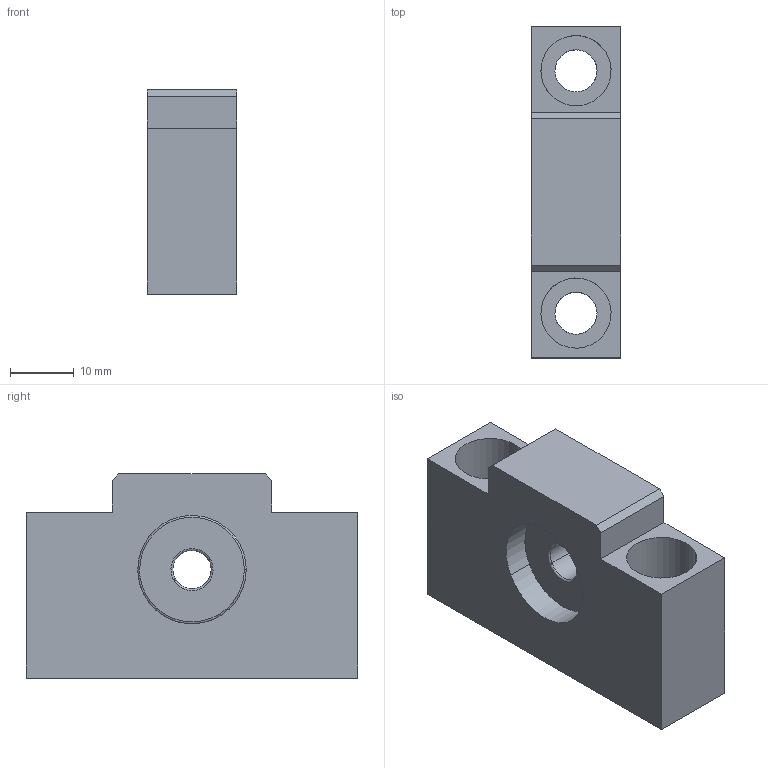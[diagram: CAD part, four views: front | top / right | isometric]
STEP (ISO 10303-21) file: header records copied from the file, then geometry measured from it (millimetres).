
FILE_DESCRIPTION(('CATIA V5 STEP Exchange'),'2;1');
FILE_NAME('D:\서포트 완성도면\EF\EF8.stp','2014-02-05T10:36:34+00:00',('none'),('none'),'CATIA Version 5 Release 18 GA (IN-10)','CATIA V5 STEP AP203','none');
FILE_SCHEMA(('CONFIG_CONTROL_DESIGN'));
Length unit declared in the file: millimetre
Products named in the file (1): EF8
Assembly tree (2 placements, depth 2):
  EF8
    #56
    #1099
Bounding box: 14 x 52 x 32 mm (x, y, z)
Volume: 15787 mm3; surface area: 7716.8 mm2
Topology: 2 solids, 2 shells, 42 faces, 100 edges, 64 vertices
Faces by surface type: plane 16, cylinder 14, torus 12
Entity records: 1686 total; most frequent: CARTESIAN_POINT 675, ORIENTED_EDGE 200, DIRECTION 162, EDGE_CURVE 100, AXIS2_PLACEMENT_3D 74, VERTEX_POINT 64, EDGE_LOOP 52, VECTOR 44
